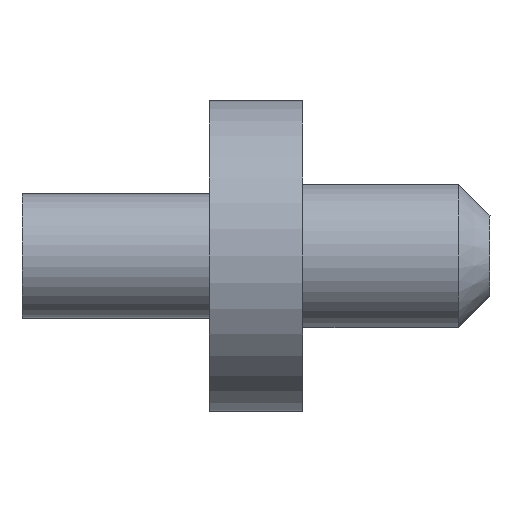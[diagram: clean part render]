
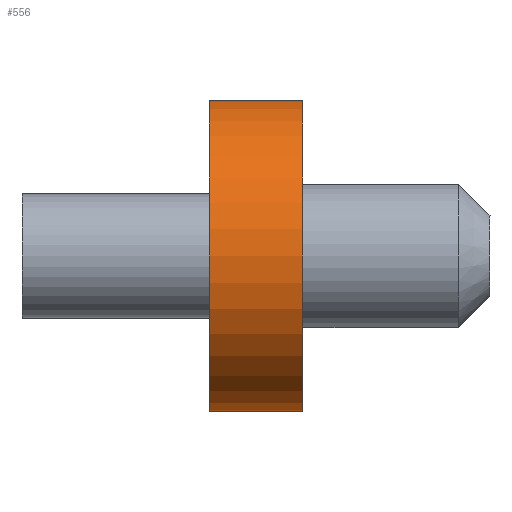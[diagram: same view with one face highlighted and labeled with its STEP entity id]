
A CAD part, left-side view. The second image highlights one B-rep face of the part: STEP entity #556.
In plain terms, the highlighted cylindrical face has radius 2.5 mm (diameter 5 mm), a partial arc.
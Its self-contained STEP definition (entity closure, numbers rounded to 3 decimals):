
#24=CARTESIAN_POINT('',(-12.,63.5,39.5));
#25=DIRECTION('',(0.,1.,0.));
#26=DIRECTION('',(0.,0.,-1.));
#27=AXIS2_PLACEMENT_3D('',#24,#25,#26);
#96=CARTESIAN_POINT('',(-12.,62.,39.5));
#97=DIRECTION('',(0.,-1.,0.));
#98=DIRECTION('',(0.,0.,1.));
#99=AXIS2_PLACEMENT_3D('',#96,#97,#98);
#153=DIRECTION('',(0.,1.,0.));
#154=VECTOR('',#153,1.5);
#155=CARTESIAN_POINT('',(-12.,62.,37.));
#156=LINE('',#155,#154);
#169=DIRECTION('',(0.,1.,0.));
#170=VECTOR('',#169,1.5);
#171=CARTESIAN_POINT('',(-12.,62.,42.));
#172=LINE('',#171,#170);
#341=CARTESIAN_POINT('',(-12.,63.5,37.));
#342=CARTESIAN_POINT('',(-12.,63.5,42.));
#343=VERTEX_POINT('',#341);
#344=VERTEX_POINT('',#342);
#345=CARTESIAN_POINT('',(-12.,62.,42.));
#346=VERTEX_POINT('',#345);
#347=CARTESIAN_POINT('',(-12.,62.,37.));
#348=VERTEX_POINT('',#347);
#544=CARTESIAN_POINT('',(-12.,49.223,39.5));
#545=DIRECTION('',(0.,1.,0.));
#546=DIRECTION('',(0.,0.,1.));
#547=AXIS2_PLACEMENT_3D('',#544,#545,#546);
#548=CYLINDRICAL_SURFACE('',#547,2.5);
#549=ORIENTED_EDGE('',*,*,#413,.T.);
#551=ORIENTED_EDGE('',*,*,#550,.F.);
#552=ORIENTED_EDGE('',*,*,#502,.T.);
#553=ORIENTED_EDGE('',*,*,#538,.T.);
#554=EDGE_LOOP('',(#549,#551,#552,#553));
#555=FACE_OUTER_BOUND('',#554,.F.);
#556=ADVANCED_FACE('',(#555),#548,.T.);
#28=CIRCLE('',#27,2.5);
#100=CIRCLE('',#99,2.5);
#413=EDGE_CURVE('',#343,#344,#28,.T.);
#502=EDGE_CURVE('',#346,#348,#100,.T.);
#538=EDGE_CURVE('',#348,#343,#156,.T.);
#550=EDGE_CURVE('',#346,#344,#172,.T.);
